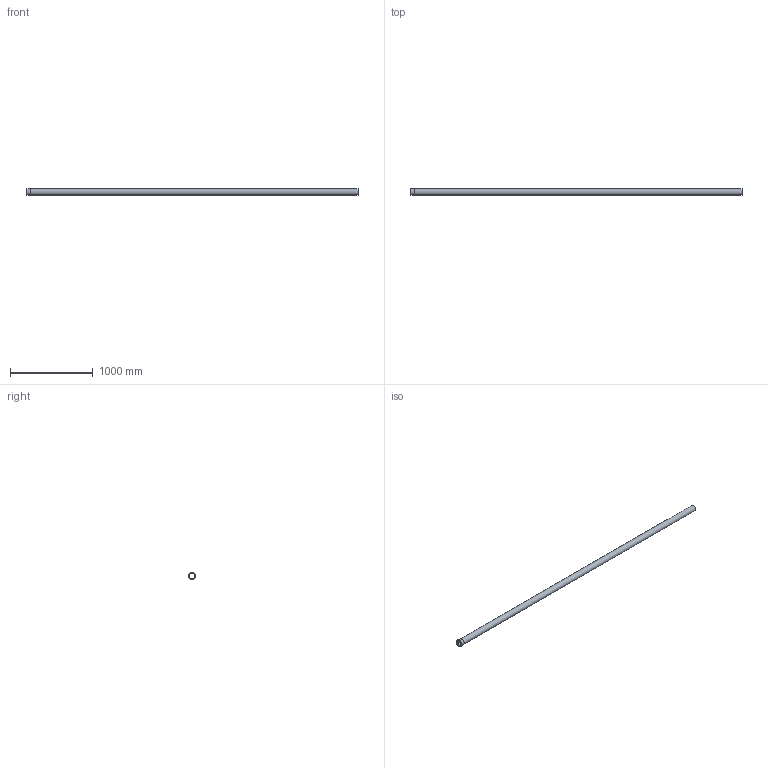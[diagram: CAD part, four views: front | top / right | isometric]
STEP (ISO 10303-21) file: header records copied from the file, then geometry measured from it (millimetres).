
FILE_DESCRIPTION((''),'2;1');
FILE_NAME('I:\WATTS\3D_CAD\3D_CAD_Models\Blucher_Drains\P_StraightPipe\WebsiteFiles\3D\STEP\P3-13.1-316.stp','2009-12-02T14:13:35',('menesek'),(''),'Autodesk Inventor 2010','Autodesk Inventor 2010','');
FILE_SCHEMA(('AUTOMOTIVE_DESIGN { 1 0 10303 214 1 1 1 1 }'));
Length unit declared in the file: inch
Products named in the file (1): P3-13.1-316
Bounding box: 4000 x 87.12 x 87.12 mm (x, y, z)
Volume: 959426.5 mm3; surface area: 1861692.4 mm2
Topology: 1 solids, 1 shells, 109 faces, 285 edges, 190 vertices
Faces by surface type: plane 59, bspline 34, cylinder 16
Full cylindrical faces by diameter (mm): 72.898 x1, 74.93 x1, 75.946 x2, 87.122 x1
Entity records: 13765 total; most frequent: CARTESIAN_POINT 11387, ORIENTED_EDGE 548, DIRECTION 356, EDGE_CURVE 274, VERTEX_POINT 186, EDGE_LOOP 128, AXIS2_PLACEMENT_3D 120, VECTOR 116
